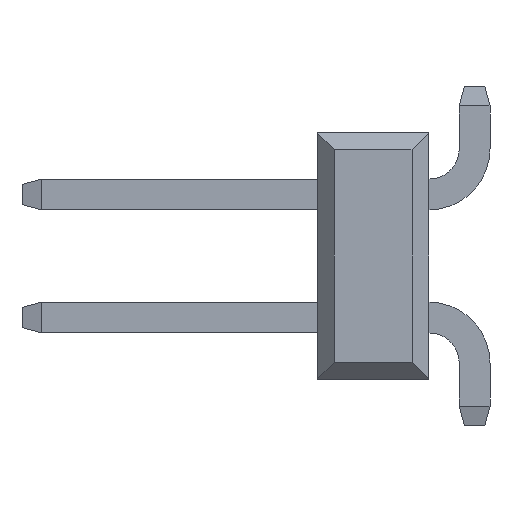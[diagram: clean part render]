
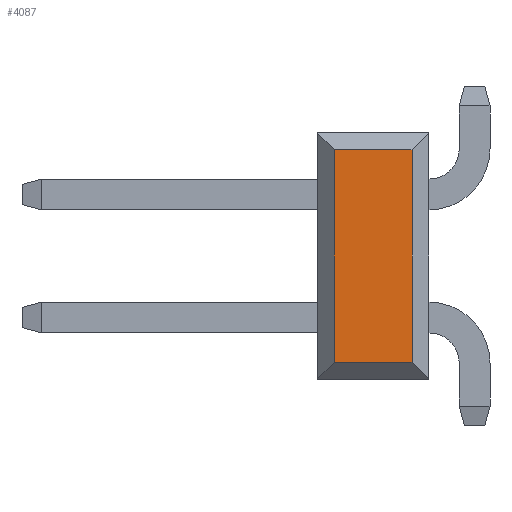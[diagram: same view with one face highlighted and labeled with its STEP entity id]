
A CAD part, left-side view. The second image highlights one B-rep face of the part: STEP entity #4087.
In plain terms, the highlighted planar face has unit normal (-1, 0, 0).
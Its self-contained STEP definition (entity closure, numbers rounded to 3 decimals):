
#89 = DIRECTION ( 'NONE',  ( -1., 0., 0. ) ) ;
#95 = DIRECTION ( 'NONE',  ( 0., 1., 0. ) ) ;
#557 = VERTEX_POINT ( 'NONE', #2425 ) ;
#574 = CARTESIAN_POINT ( 'NONE',  ( -6.35, 3.21, -2.19 ) ) ;
#655 = ORIENTED_EDGE ( 'NONE', *, *, #5042, .F. ) ;
#874 = EDGE_CURVE ( 'NONE', #4757, #557, #5271, .T. ) ;
#937 = CARTESIAN_POINT ( 'NONE',  ( -6.35, 0., 0. ) ) ;
#1428 = EDGE_CURVE ( 'NONE', #5710, #557, #1508, .T. ) ;
#1498 = VECTOR ( 'NONE', #3109, 1000. ) ;
#1508 = LINE ( 'NONE', #3260, #3210 ) ;
#1560 = VERTEX_POINT ( 'NONE', #2104 ) ;
#1780 = DIRECTION ( 'NONE',  ( 0., 0., 1. ) ) ;
#1892 = EDGE_CURVE ( 'NONE', #1560, #4757, #3553, .T. ) ;
#1967 = ORIENTED_EDGE ( 'NONE', *, *, #874, .T. ) ;
#2104 = CARTESIAN_POINT ( 'NONE',  ( -6.35, 1.61, -2.19 ) ) ;
#2322 = FACE_OUTER_BOUND ( 'NONE', #5412, .T. ) ;
#2425 = CARTESIAN_POINT ( 'NONE',  ( -6.35, 3.21, 2.19 ) ) ;
#2705 = CARTESIAN_POINT ( 'NONE',  ( -6.35, 1.26, 2.19 ) ) ;
#3109 = DIRECTION ( 'NONE',  ( 0., 0., 1. ) ) ;
#3167 = DIRECTION ( 'NONE',  ( 0., 1., 0. ) ) ;
#3179 = AXIS2_PLACEMENT_3D ( 'NONE', #937, #89, #1780 ) ;
#3210 = VECTOR ( 'NONE', #4994, 1000. ) ;
#3260 = CARTESIAN_POINT ( 'NONE',  ( -6.35, 3.21, -2.54 ) ) ;
#3553 = LINE ( 'NONE', #5319, #1498 ) ;
#3599 = LINE ( 'NONE', #5491, #5236 ) ;
#4087 = ADVANCED_FACE ( 'NONE', ( #2322 ), #4467, .T. ) ;
#4467 = PLANE ( 'NONE',  #3179 ) ;
#4571 = CARTESIAN_POINT ( 'NONE',  ( -6.35, 1.61, 2.19 ) ) ;
#4579 = VECTOR ( 'NONE', #3167, 1000. ) ;
#4757 = VERTEX_POINT ( 'NONE', #4571 ) ;
#4994 = DIRECTION ( 'NONE',  ( 0., 0., 1. ) ) ;
#5042 = EDGE_CURVE ( 'NONE', #1560, #5710, #3599, .T. ) ;
#5236 = VECTOR ( 'NONE', #95, 1000. ) ;
#5271 = LINE ( 'NONE', #2705, #4579 ) ;
#5283 = ORIENTED_EDGE ( 'NONE', *, *, #1428, .F. ) ;
#5319 = CARTESIAN_POINT ( 'NONE',  ( -6.35, 1.61, -2.54 ) ) ;
#5412 = EDGE_LOOP ( 'NONE', ( #1967, #5283, #655, #5413 ) ) ;
#5413 = ORIENTED_EDGE ( 'NONE', *, *, #1892, .T. ) ;
#5491 = CARTESIAN_POINT ( 'NONE',  ( -6.35, 1.26, -2.19 ) ) ;
#5710 = VERTEX_POINT ( 'NONE', #574 ) ;
